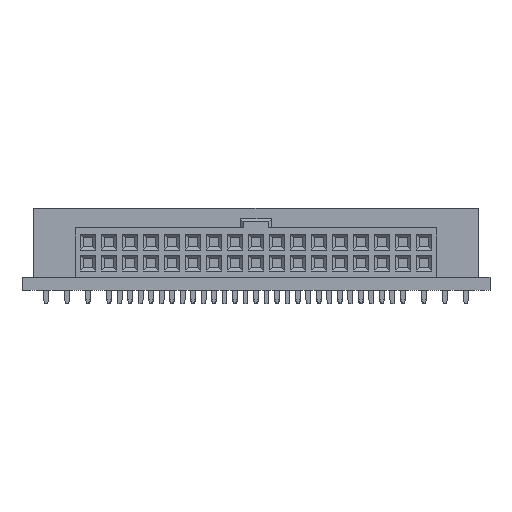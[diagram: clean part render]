
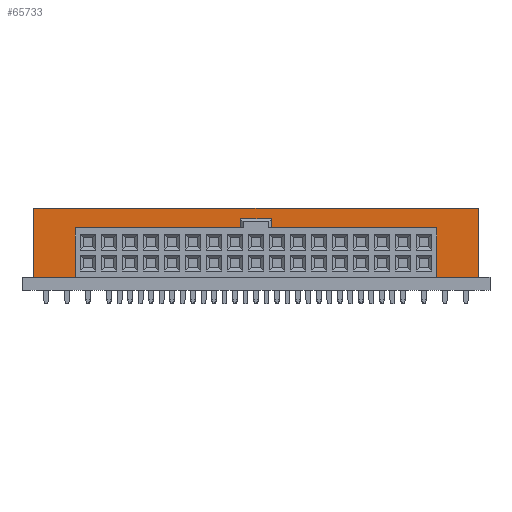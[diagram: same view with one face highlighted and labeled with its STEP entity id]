
A CAD part, left-side view. The second image highlights one B-rep face of the part: STEP entity #65733.
In plain terms, the highlighted planar face has unit normal (-1, 0, 0).
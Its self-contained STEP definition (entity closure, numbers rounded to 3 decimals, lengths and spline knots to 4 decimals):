
#9689=DIRECTION('',(0.,1.,0.));
#9690=VECTOR('',#9689,2.1197);
#9691=CARTESIAN_POINT('',(-1.0992,-1.0598,0.062));
#9692=LINE('',#9691,#9690);
#22157=DIRECTION('',(0.,0.,-1.));
#22158=VECTOR('',#22157,0.3307);
#22159=CARTESIAN_POINT('',(-1.0992,1.0598,
0.3927));
#22160=LINE('',#22159,#22158);
#22161=DIRECTION('',(0.,1.,0.));
#22162=VECTOR('',#22161,2.1197);
#22163=CARTESIAN_POINT('',(-1.0992,-1.0598,
0.3927));
#22164=LINE('',#22163,#22162);
#22165=DIRECTION('',(0.,0.,1.));
#22166=VECTOR('',#22165,0.3307);
#22167=CARTESIAN_POINT('',(-1.0992,-1.0598,0.062));
#22168=LINE('',#22167,#22166);
#32110=CARTESIAN_POINT('',(-1.0992,-1.0598,
0.3927));
#32112=VERTEX_POINT('',#32110);
#32115=CARTESIAN_POINT('',(-1.0992,1.0598,
0.3927));
#32116=VERTEX_POINT('',#32115);
#33138=CARTESIAN_POINT('',(-1.0992,-1.0598,0.062));
#33140=VERTEX_POINT('',#33138);
#33145=CARTESIAN_POINT('',(-1.0992,1.0598,0.062));
#33147=VERTEX_POINT('',#33145);
#65722=CARTESIAN_POINT('',(-1.0992,0.,0.2274));
#65723=DIRECTION('',(-1.,0.,0.));
#65724=DIRECTION('',(0.,1.,0.));
#65725=AXIS2_PLACEMENT_3D('',#65722,#65723,#65724);
#65726=PLANE('',#65725);
#65727=ORIENTED_EDGE('',*,*,#39770,.T.);
#65728=ORIENTED_EDGE('',*,*,#63104,.F.);
#65729=ORIENTED_EDGE('',*,*,#65505,.F.);
#65730=ORIENTED_EDGE('',*,*,#63065,.F.);
#65731=EDGE_LOOP('',(#65727,#65728,#65729,#65730));
#65732=FACE_OUTER_BOUND('',#65731,.F.);
#65733=ADVANCED_FACE('',(#65732),#65726,.T.);
#39770=EDGE_CURVE('',#33140,#33147,#9692,.T.);
#63065=EDGE_CURVE('',#33140,#32112,#22168,.T.);
#63104=EDGE_CURVE('',#32116,#33147,#22160,.T.);
#65505=EDGE_CURVE('',#32112,#32116,#22164,.T.);
